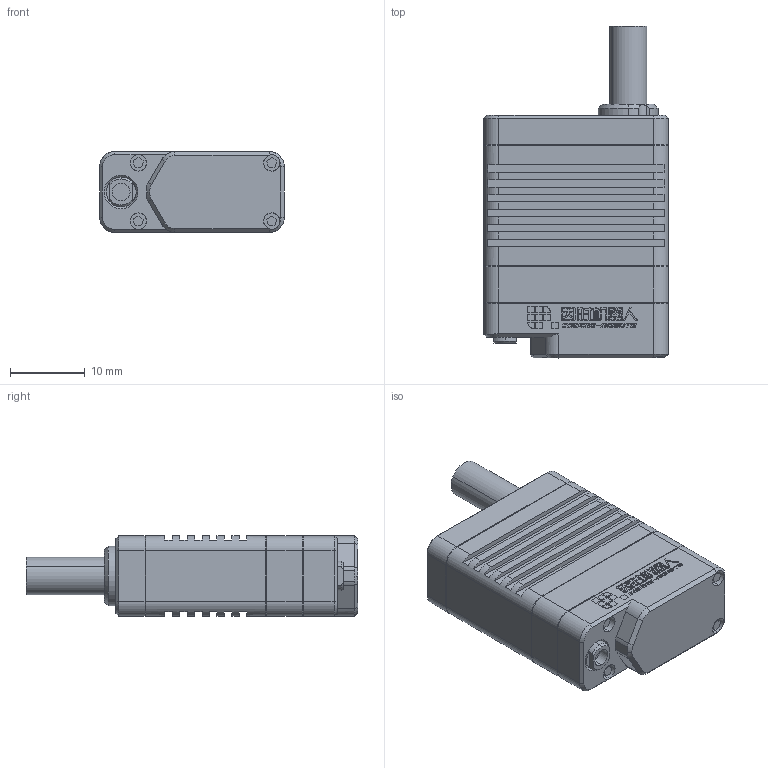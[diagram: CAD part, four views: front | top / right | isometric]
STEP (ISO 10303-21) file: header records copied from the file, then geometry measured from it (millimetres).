
FILE_DESCRIPTION (( 'STEP AP214' ), '1' );
FILE_NAME ('LAS10-0x1D.STEP', '2022-12-28T09:09:53', ( '' ), ( '' ), '', '', '' );
FILE_SCHEMA (( 'AUTOMOTIVE_DESIGN' ));
Length unit declared in the file: millimetre
Products named in the file (3): exA820109-015祥凄詩杶奪_1; Part1^LAS10-0x1D; LAS10-0x1D
Assembly tree (2 placements, depth 2):
  LAS10-0x1D
    exA820109-015祥凄詩杶奪_1
    Part1^LAS10-0x1D
Bounding box: 24.8 x 44.5 x 10.8 mm (x, y, z)
Volume: 8391.5 mm3; surface area: 3754.1 mm2
Topology: 2 solids, 10 shells, 1433 faces, 3782 edges, 2480 vertices
Faces by surface type: plane 820, bspline 440, cylinder 120, cone 53
Entity records: 51779 total; most frequent: CARTESIAN_POINT 13867, ORIENTED_EDGE 7554, DIRECTION 5262, EDGE_CURVE 3777, VECTOR 2492, LINE 2492, VERTEX_POINT 2480, EDGE_LOOP 1565
